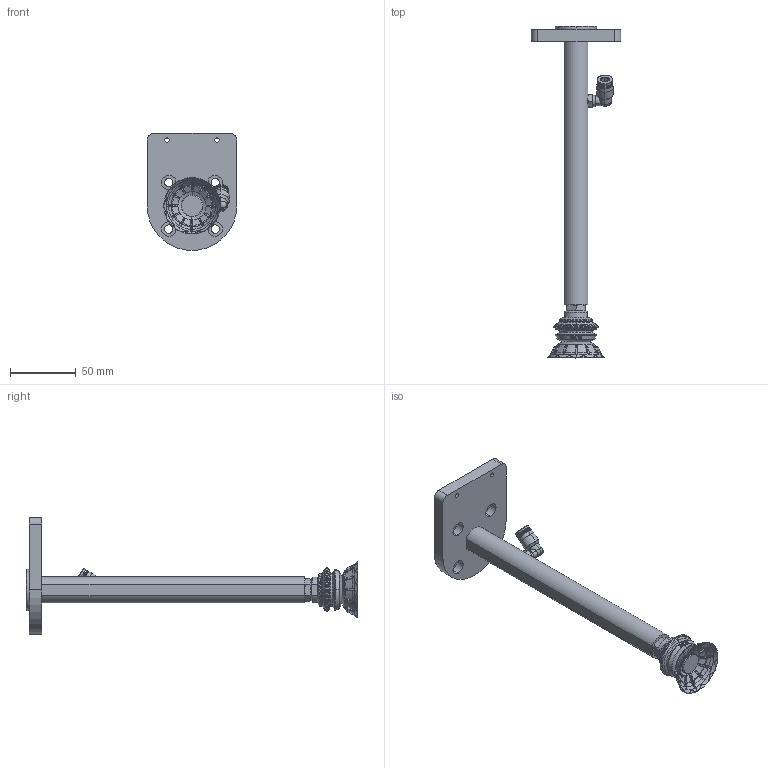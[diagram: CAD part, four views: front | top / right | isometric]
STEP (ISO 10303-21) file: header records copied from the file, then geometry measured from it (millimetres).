
FILE_DESCRIPTION (( 'STEP AP203' ), '1' );
FILE_NAME ('生态套件-分拣工作站-末端吸盘组件.STEP', '2024-11-08T07:36:34', ( '' ), ( '' ), 'SwSTEP 2.0', 'SolidWorks 2018', '' );
FILE_SCHEMA (( 'CONFIG_CONTROL_DESIGN' ));
Length unit declared in the file: millimetre
Products named in the file (1): 生态套件-分拣工作站-末端吸盘组件
Bounding box: 68 x 252.42 x 89 mm (x, y, z)
Surface area: 38157.8 mm2 (no closed solid volume)
Topology: 0 solids, 19 shells, 590 faces, 1760 edges, 1160 vertices
Faces by surface type: bspline 170, cone 163, plane 152, cylinder 92, torus 13
Entity records: 25817 total; most frequent: CARTESIAN_POINT 11724, ORIENTED_EDGE 3079, DIRECTION 2449, EDGE_CURVE 1760, VERTEX_POINT 1160, AXIS2_PLACEMENT_3D 989, B_SPLINE_CURVE_WITH_KNOTS 707, EDGE_LOOP 637
